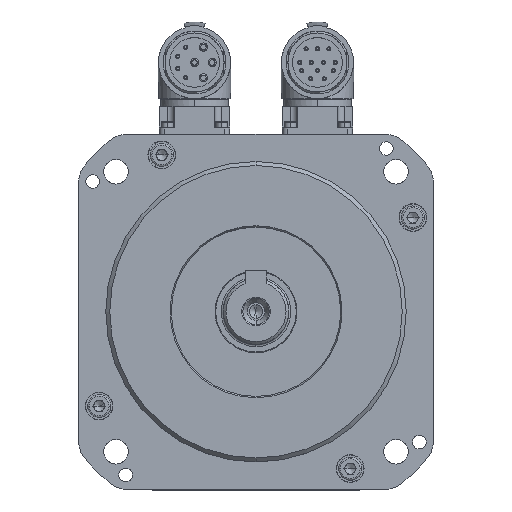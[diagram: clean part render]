
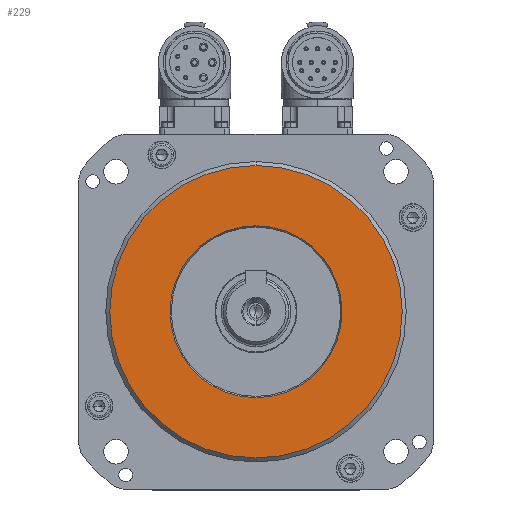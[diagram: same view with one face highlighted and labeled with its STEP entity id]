
A CAD part, top view. The second image highlights one B-rep face of the part: STEP entity #229.
In plain terms, the highlighted planar face has unit normal (0, 0, 1).
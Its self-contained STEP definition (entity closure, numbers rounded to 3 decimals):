
#229 = ADVANCED_FACE ( 'NONE', ( #3834, #27969 ), #42099, .T. ) ;
#2152 = CARTESIAN_POINT ( 'NONE',  ( 0., 0., 66.8 ) ) ;
#3834 = FACE_BOUND ( 'NONE', #60166, .T. ) ;
#4533 = DIRECTION ( 'NONE',  ( 0., -1., 0. ) ) ;
#6244 = EDGE_CURVE ( 'NONE', #14242, #60234, #43517, .T. ) ;
#7441 = AXIS2_PLACEMENT_3D ( 'NONE', #35338, #59376, #20330 ) ;
#11023 = EDGE_CURVE ( 'NONE', #60234, #14242, #49033, .T. ) ;
#11961 = ORIENTED_EDGE ( 'NONE', *, *, #45548, .T. ) ;
#12150 = CARTESIAN_POINT ( 'NONE',  ( 0., 53.54, 66.8 ) ) ;
#12530 = VERTEX_POINT ( 'NONE', #12150 ) ;
#13561 = CARTESIAN_POINT ( 'NONE',  ( 0., -53.54, 66.8 ) ) ;
#14242 = VERTEX_POINT ( 'NONE', #14882 ) ;
#14882 = CARTESIAN_POINT ( 'NONE',  ( 0., -31.481, 66.8 ) ) ;
#16735 = ORIENTED_EDGE ( 'NONE', *, *, #6244, .F. ) ;
#17585 = CARTESIAN_POINT ( 'NONE',  ( 0., 0., 66.8 ) ) ;
#18239 = DIRECTION ( 'NONE',  ( 0., 0., 1. ) ) ;
#18668 = DIRECTION ( 'NONE',  ( 0., -1., 0. ) ) ;
#19116 = VERTEX_POINT ( 'NONE', #13561 ) ;
#20330 = DIRECTION ( 'NONE',  ( 0., -1., 0. ) ) ;
#21709 = DIRECTION ( 'NONE',  ( 0., -1., 0. ) ) ;
#23155 = AXIS2_PLACEMENT_3D ( 'NONE', #2152, #50616, #21709 ) ;
#24236 = AXIS2_PLACEMENT_3D ( 'NONE', #42751, #18239, #18668 ) ;
#26795 = ORIENTED_EDGE ( 'NONE', *, *, #11023, .F. ) ;
#27737 = DIRECTION ( 'NONE',  ( 0., -1., 0. ) ) ;
#27969 = FACE_OUTER_BOUND ( 'NONE', #55548, .T. ) ;
#29280 = AXIS2_PLACEMENT_3D ( 'NONE', #48380, #57250, #4533 ) ;
#35338 = CARTESIAN_POINT ( 'NONE',  ( 0., 0., 66.8 ) ) ;
#38611 = EDGE_CURVE ( 'NONE', #19116, #12530, #56763, .T. ) ;
#42099 = PLANE ( 'NONE',  #46544 ) ;
#42751 = CARTESIAN_POINT ( 'NONE',  ( 0., 0., 66.8 ) ) ;
#43517 = CIRCLE ( 'NONE', #23155, 31.481 ) ;
#45548 = EDGE_CURVE ( 'NONE', #12530, #19116, #61820, .T. ) ;
#46544 = AXIS2_PLACEMENT_3D ( 'NONE', #17585, #51362, #27737 ) ;
#48380 = CARTESIAN_POINT ( 'NONE',  ( 0., 0., 66.8 ) ) ;
#49033 = CIRCLE ( 'NONE', #24236, 31.481 ) ;
#50616 = DIRECTION ( 'NONE',  ( 0., 0., 1. ) ) ;
#51104 = CARTESIAN_POINT ( 'NONE',  ( 0., 31.481, 66.8 ) ) ;
#51362 = DIRECTION ( 'NONE',  ( 0., 0., 1. ) ) ;
#55548 = EDGE_LOOP ( 'NONE', ( #11961, #60818 ) ) ;
#56763 = CIRCLE ( 'NONE', #7441, 53.54 ) ;
#57250 = DIRECTION ( 'NONE',  ( 0., 0., 1. ) ) ;
#59376 = DIRECTION ( 'NONE',  ( 0., 0., 1. ) ) ;
#60166 = EDGE_LOOP ( 'NONE', ( #26795, #16735 ) ) ;
#60234 = VERTEX_POINT ( 'NONE', #51104 ) ;
#60818 = ORIENTED_EDGE ( 'NONE', *, *, #38611, .T. ) ;
#61820 = CIRCLE ( 'NONE', #29280, 53.54 ) ;
